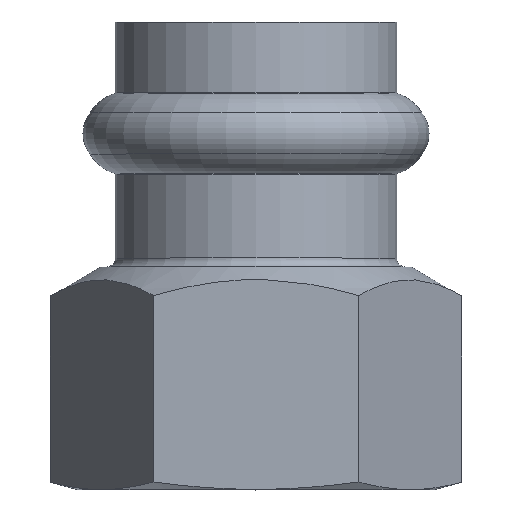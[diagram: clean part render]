
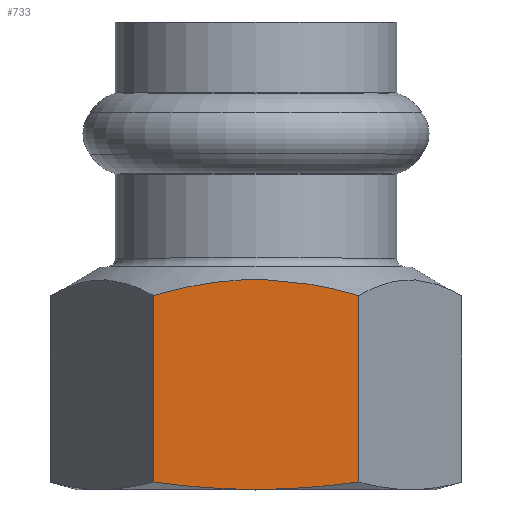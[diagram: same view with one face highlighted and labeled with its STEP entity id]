
A CAD part, top view. The second image highlights one B-rep face of the part: STEP entity #733.
In plain terms, the highlighted planar face has unit normal (0, 0, 1).
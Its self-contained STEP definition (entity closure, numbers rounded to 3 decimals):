
#25=(
BOUNDED_CURVE()
B_SPLINE_CURVE(2,(#1334,#1335,#1336),.UNSPECIFIED.,.F.,.F.)
B_SPLINE_CURVE_WITH_KNOTS((3,3),(0.24,2.204),
 .UNSPECIFIED.)
CURVE()
GEOMETRIC_REPRESENTATION_ITEM()
RATIONAL_B_SPLINE_CURVE((1.044,1.206,1.044))
REPRESENTATION_ITEM('')
);
#26=(
BOUNDED_CURVE()
B_SPLINE_CURVE(2,(#1337,#1338,#1339),.UNSPECIFIED.,.F.,.F.)
B_SPLINE_CURVE_WITH_KNOTS((3,3),(1.206,2.164),
 .UNSPECIFIED.)
CURVE()
GEOMETRIC_REPRESENTATION_ITEM()
RATIONAL_B_SPLINE_CURVE((1.,1.048,1.02))
REPRESENTATION_ITEM('')
);
#27=(
BOUNDED_CURVE()
B_SPLINE_CURVE(2,(#1341,#1342,#1343),.UNSPECIFIED.,.F.,.F.)
B_SPLINE_CURVE_WITH_KNOTS((3,3),(0.248,1.206),
 .UNSPECIFIED.)
CURVE()
GEOMETRIC_REPRESENTATION_ITEM()
RATIONAL_B_SPLINE_CURVE((1.02,1.048,1.))
REPRESENTATION_ITEM('')
);
#60=LINE('',#1314,#82);
#62=LINE('',#1344,#84);
#82=VECTOR('',#1064,10.);
#84=VECTOR('',#1070,10.);
#142=FACE_OUTER_BOUND('',#193,.T.);
#193=EDGE_LOOP('',(#599,#600,#601,#602,#603));
#318=VERTEX_POINT('',#1241);
#340=VERTEX_POINT('',#1303);
#341=VERTEX_POINT('',#1310);
#345=VERTEX_POINT('',#1333);
#346=VERTEX_POINT('',#1340);
#434=EDGE_CURVE('',#340,#341,#60,.T.);
#440=EDGE_CURVE('',#340,#345,#25,.T.);
#441=EDGE_CURVE('',#318,#341,#26,.T.);
#442=EDGE_CURVE('',#346,#318,#27,.T.);
#443=EDGE_CURVE('',#345,#346,#62,.T.);
#599=ORIENTED_EDGE('',*,*,#440,.F.);
#600=ORIENTED_EDGE('',*,*,#434,.T.);
#601=ORIENTED_EDGE('',*,*,#441,.F.);
#602=ORIENTED_EDGE('',*,*,#442,.F.);
#603=ORIENTED_EDGE('',*,*,#443,.F.);
#704=PLANE('',#854);
#733=ADVANCED_FACE('',(#142),#704,.T.);
#854=AXIS2_PLACEMENT_3D('',#1332,#1068,#1069);
#1064=DIRECTION('',(0.,-1.,0.));
#1068=DIRECTION('center_axis',(0.,0.,
1.));
#1069=DIRECTION('ref_axis',(-1.,0.,0.));
#1070=DIRECTION('',(0.,-1.,0.));
#1241=CARTESIAN_POINT('',(0.,-42.,16.));
#1303=CARTESIAN_POINT('',(-9.238,-24.584,16.));
#1310=CARTESIAN_POINT('',(-9.238,-41.337,16.));
#1314=CARTESIAN_POINT('',(-9.238,-10.,16.));
#1332=CARTESIAN_POINT('Origin',(9.238,-10.,16.));
#1333=CARTESIAN_POINT('',(9.238,-24.584,16.));
#1334=CARTESIAN_POINT('Ctrl Pts',(-9.238,-24.584,16.));
#1335=CARTESIAN_POINT('Ctrl Pts',(0.,-21.917,
16.));
#1336=CARTESIAN_POINT('Ctrl Pts',(9.238,-24.584,16.));
#1337=CARTESIAN_POINT('Ctrl Pts',(0.,-42.,16.));
#1338=CARTESIAN_POINT('Ctrl Pts',(-4.287,-42.,16.));
#1339=CARTESIAN_POINT('Ctrl Pts',(-9.238,-41.337,16.));
#1340=CARTESIAN_POINT('',(9.238,-41.337,16.));
#1341=CARTESIAN_POINT('Ctrl Pts',(9.238,-41.337,16.));
#1342=CARTESIAN_POINT('Ctrl Pts',(4.287,-42.,16.));
#1343=CARTESIAN_POINT('Ctrl Pts',(0.,-42.,16.));
#1344=CARTESIAN_POINT('',(9.238,-10.,16.));
